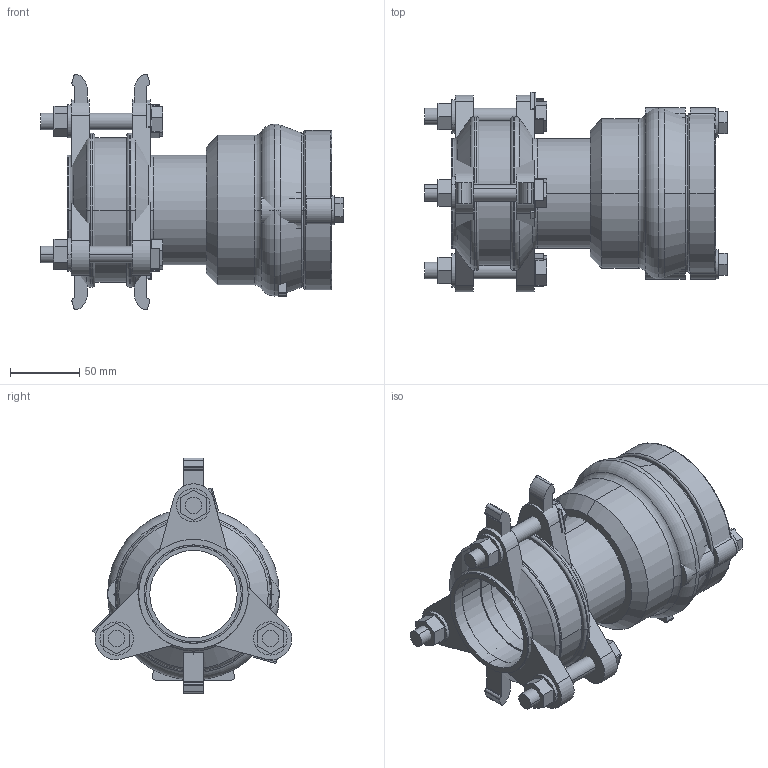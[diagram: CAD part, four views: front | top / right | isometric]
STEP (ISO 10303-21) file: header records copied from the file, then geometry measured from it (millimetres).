
FILE_DESCRIPTION(('STEP AP214'),'1');
FILE_NAME('MJB00030 DN50-PE63.STP','2015-02-06T10:40:42',(' '),(' '),'Spatial InterOp 3D',' ',' ');
FILE_SCHEMA(('automotive_design'));
Length unit declared in the file: millimetre
Products named in the file (45): 3D-Objekt
Bounding box: 218 x 143.81 x 170 mm (x, y, z)
Volume: 1099629.3 mm3; surface area: 252358.9 mm2
Topology: 45 solids, 45 shells, 363 faces, 806 edges, 535 vertices
Faces by surface type: plane 217, cylinder 104, torus 30, cone 12
Entity records: 14084 total; most frequent: DIRECTION 1937, CARTESIAN_POINT 1749, ORIENTED_EDGE 1612, EDGE_CURVE 806, AXIS2_PLACEMENT_3D 723, VERTEX_POINT 535, LINE 491, VECTOR 491
